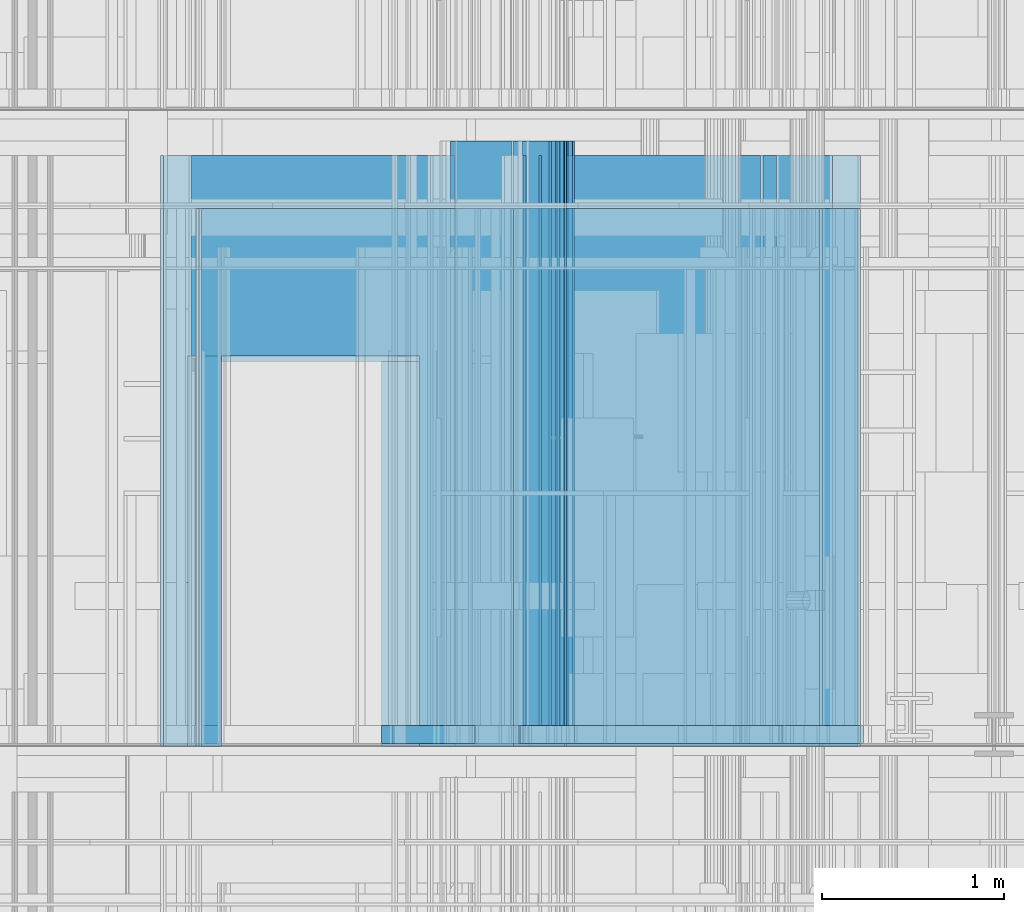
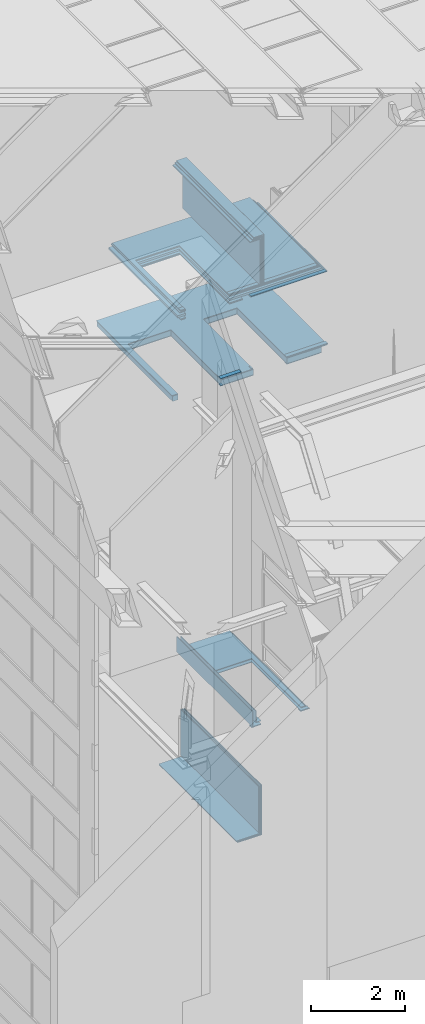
# One storey, part 79 of 583: 39 building element parts, 7 openings, 8 elements without a shape of their own.
"""IFC2X3 building model written with IfcOpenShell, lengths in metres."""

from ifc_helpers import new_model, entity, si_unit, converted_unit, derived_unit, money_unit, direction, frame, frame_2d, origin_with_axes, place, context, subcontext, project, spatial, polyline, rectangle, outline, extrude, material, type_object, element, aggregate, save


model = new_model("IFC2X3")

# Units and contexts
model_context = context("Model", 3, precision=1e-05, world=origin_with_axes(), true_north=direction((0.0, 1.0)))
body_context = subcontext(model_context, "Body", "Model", "MODEL_VIEW", scale=1.0)
ifc_project = project(units=[si_unit("LENGTHUNIT", "METRE"), si_unit("AREAUNIT", "SQUARE_METRE"), si_unit("VOLUMEUNIT", "CUBIC_METRE"), si_unit("ABSORBEDDOSEUNIT", "GRAY"), si_unit("AMOUNTOFSUBSTANCEUNIT", "MOLE"), si_unit("DOSEEQUIVALENTUNIT", "SIEVERT"), si_unit("ELECTRICCAPACITANCEUNIT", "FARAD"), si_unit("ELECTRICCHARGEUNIT", "COULOMB"), si_unit("ELECTRICCONDUCTANCEUNIT", "SIEMENS"), si_unit("ELECTRICCURRENTUNIT", "AMPERE"), si_unit("ELECTRICRESISTANCEUNIT", "OHM"), si_unit("ELECTRICVOLTAGEUNIT", "VOLT"), si_unit("ENERGYUNIT", "JOULE"), si_unit("FORCEUNIT", "NEWTON"), si_unit("FREQUENCYUNIT", "HERTZ"), si_unit("ILLUMINANCEUNIT", "LUX"), si_unit("INDUCTANCEUNIT", "HENRY"), si_unit("LUMINOUSFLUXUNIT", "LUMEN"), si_unit("LUMINOUSINTENSITYUNIT", "CANDELA"), si_unit("MAGNETICFLUXDENSITYUNIT", "TESLA"), si_unit("MAGNETICFLUXUNIT", "WEBER"), si_unit("MASSUNIT", "GRAM"), converted_unit("PLANEANGLEUNIT", "degree", entity("IfcReal", 0.0174532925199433), si_unit("PLANEANGLEUNIT", "RADIAN"), dimensions=[0, 0, 0, 0, 0, 0, 0]), si_unit("POWERUNIT", "WATT"), si_unit("PRESSUREUNIT", "PASCAL"), si_unit("RADIOACTIVITYUNIT", "BECQUEREL"), si_unit("SOLIDANGLEUNIT", "STERADIAN"), si_unit("THERMODYNAMICTEMPERATUREUNIT", "KELVIN"), si_unit("TIMEUNIT", "SECOND"), derived_unit("ACCELERATIONUNIT", [(si_unit("LENGTHUNIT", "METRE"), 1), (si_unit("TIMEUNIT", "SECOND"), -2)]), derived_unit("ANGULARVELOCITYUNIT", [(converted_unit("PLANEANGLEUNIT", "degree", entity("IfcReal", 0.0174532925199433), si_unit("PLANEANGLEUNIT", "RADIAN"), dimensions=[0, 0, 0, 0, 0, 0, 0]), 1), (si_unit("TIMEUNIT", "SECOND"), -1)]), derived_unit("CURVATUREUNIT", [(converted_unit("PLANEANGLEUNIT", "degree", entity("IfcReal", 0.0174532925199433), si_unit("PLANEANGLEUNIT", "RADIAN"), dimensions=[0, 0, 0, 0, 0, 0, 0]), 1), (si_unit("LENGTHUNIT", "METRE"), -1)]), derived_unit("DYNAMICVISCOSITYUNIT", [(si_unit("PRESSUREUNIT", "PASCAL"), 1), (si_unit("TIMEUNIT", "SECOND"), 1)]), derived_unit("HEATFLUXDENSITYUNIT", [(si_unit("POWERUNIT", "WATT"), 1), (si_unit("LENGTHUNIT", "METRE"), -2)]), derived_unit("HEATINGVALUEUNIT", [(si_unit("ENERGYUNIT", "JOULE"), 1), (si_unit("MASSUNIT", "GRAM"), -1)]), derived_unit("INTEGERCOUNTRATEUNIT", [(si_unit("TIMEUNIT", "SECOND"), -1)]), derived_unit("IONCONCENTRATIONUNIT", [(si_unit("MASSUNIT", "GRAM"), 1), (si_unit("VOLUMEUNIT", "CUBIC_METRE"), -1)]), derived_unit("ISOTHERMALMOISTURECAPACITYUNIT", [(si_unit("VOLUMEUNIT", "CUBIC_METRE"), 1), (si_unit("MASSUNIT", "GRAM"), -1)]), derived_unit("KINEMATICVISCOSITYUNIT", [(si_unit("AREAUNIT", "SQUARE_METRE"), 1), (si_unit("TIMEUNIT", "SECOND"), -1)]), derived_unit("LINEARFORCEUNIT", [(si_unit("FORCEUNIT", "NEWTON"), 1), (si_unit("LENGTHUNIT", "METRE"), -1)]), derived_unit("LINEARMOMENTUNIT", [(si_unit("FORCEUNIT", "NEWTON"), 1), (si_unit("LENGTHUNIT", "METRE"), -1)]), derived_unit("LINEARSTIFFNESSUNIT", [(si_unit("FORCEUNIT", "NEWTON"), 1), (si_unit("LENGTHUNIT", "METRE"), -1)]), derived_unit("LINEARVELOCITYUNIT", [(si_unit("LENGTHUNIT", "METRE"), 1), (si_unit("TIMEUNIT", "SECOND"), -1)]), derived_unit("LUMINOUSINTENSITYDISTRIBUTIONUNIT", [(si_unit("LUMINOUSINTENSITYUNIT", "CANDELA"), 1), (si_unit("LUMINOUSFLUXUNIT", "LUMEN"), -1)]), derived_unit("MASSDENSITYUNIT", [(si_unit("MASSUNIT", "GRAM"), 1), (si_unit("VOLUMEUNIT", "CUBIC_METRE"), -1)]), derived_unit("MASSFLOWRATEUNIT", [(si_unit("MASSUNIT", "GRAM"), 1), (si_unit("TIMEUNIT", "SECOND"), -1)]), derived_unit("MASSPERLENGTHUNIT", [(si_unit("MASSUNIT", "GRAM"), 1), (si_unit("LENGTHUNIT", "METRE"), -1)]), derived_unit("MODULUSOFELASTICITYUNIT", [(si_unit("FORCEUNIT", "NEWTON"), 1), (si_unit("AREAUNIT", "SQUARE_METRE"), -1)]), derived_unit("MODULUSOFLINEARSUBGRADEREACTIONUNIT", [(si_unit("FORCEUNIT", "NEWTON"), 1), (si_unit("LENGTHUNIT", "METRE"), -2)]), derived_unit("MODULUSOFROTATIONALSUBGRADEREACTIONUNIT", [(si_unit("FORCEUNIT", "NEWTON"), 1), (si_unit("LENGTHUNIT", "METRE"), 1)]), derived_unit("MODULUSOFSUBGRADEREACTIONUNIT", [(si_unit("FORCEUNIT", "NEWTON"), 1), (si_unit("VOLUMEUNIT", "CUBIC_METRE"), -1)]), derived_unit("MOISTUREDIFFUSIVITYUNIT", [(si_unit("VOLUMEUNIT", "CUBIC_METRE"), 1), (si_unit("TIMEUNIT", "SECOND"), -1)]), derived_unit("MOLECULARWEIGHTUNIT", [(si_unit("MASSUNIT", "GRAM"), 1), (si_unit("AMOUNTOFSUBSTANCEUNIT", "MOLE"), -1)]), derived_unit("PLANARFORCEUNIT", [(si_unit("FORCEUNIT", "NEWTON"), 1), (si_unit("LENGTHUNIT", "METRE"), -2)]), derived_unit("ROTATIONALFREQUENCYUNIT", [(si_unit("TIMEUNIT", "SECOND"), -1)]), derived_unit("ROTATIONALMASSUNIT", [(si_unit("MASSUNIT", "GRAM"), 1), (si_unit("LENGTHUNIT", "METRE"), 2)]), derived_unit("ROTATIONALSTIFFNESSUNIT", [(si_unit("FORCEUNIT", "NEWTON"), 1), (si_unit("LENGTHUNIT", "METRE"), 1), (converted_unit("PLANEANGLEUNIT", "degree", entity("IfcReal", 0.0174532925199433), si_unit("PLANEANGLEUNIT", "RADIAN"), dimensions=[0, 0, 0, 0, 0, 0, 0]), -1)]), derived_unit("SECTIONAREAINTEGRALUNIT", [(si_unit("LENGTHUNIT", "METRE"), 5)]), derived_unit("SECTIONMODULUSUNIT", [(si_unit("LENGTHUNIT", "METRE"), 3)]), derived_unit("SHEARMODULUSUNIT", [(si_unit("FORCEUNIT", "NEWTON"), 1), (si_unit("AREAUNIT", "SQUARE_METRE"), -1)]), derived_unit("SOUNDPOWERUNIT", [(si_unit("ENERGYUNIT", "JOULE"), 1), (si_unit("TIMEUNIT", "SECOND"), -1)]), derived_unit("SPECIFICHEATCAPACITYUNIT", [(si_unit("FORCEUNIT", "NEWTON"), 1), (si_unit("MASSUNIT", "GRAM"), -1), (si_unit("THERMODYNAMICTEMPERATUREUNIT", "KELVIN"), -1)]), derived_unit("TEMPERATUREGRADIENTUNIT", [(si_unit("THERMODYNAMICTEMPERATUREUNIT", "KELVIN"), 1), (si_unit("LENGTHUNIT", "METRE"), -1)]), derived_unit("THERMALADMITTANCEUNIT", [(si_unit("POWERUNIT", "WATT"), 1), (si_unit("AREAUNIT", "SQUARE_METRE"), -1), (si_unit("THERMODYNAMICTEMPERATUREUNIT", "KELVIN"), -1)]), derived_unit("THERMALCONDUCTANCEUNIT", [(si_unit("POWERUNIT", "WATT"), 1), (si_unit("LENGTHUNIT", "METRE"), -1), (si_unit("THERMODYNAMICTEMPERATUREUNIT", "KELVIN"), -1)]), derived_unit("THERMALEXPANSIONCOEFFICIENTUNIT", [(si_unit("THERMODYNAMICTEMPERATUREUNIT", "KELVIN"), -1)]), derived_unit("THERMALRESISTANCEUNIT", [(si_unit("AREAUNIT", "SQUARE_METRE"), 1), (si_unit("POWERUNIT", "WATT"), -1)]), derived_unit("THERMALTRANSMITTANCEUNIT", [(si_unit("POWERUNIT", "WATT"), 1), (si_unit("AREAUNIT", "SQUARE_METRE"), -1), (si_unit("THERMODYNAMICTEMPERATUREUNIT", "KELVIN"), -1)]), derived_unit("TORQUEUNIT", [(si_unit("FORCEUNIT", "NEWTON"), 1), (si_unit("LENGTHUNIT", "METRE"), 1)]), derived_unit("VAPORPERMEABILITYUNIT", [(si_unit("MASSUNIT", "GRAM"), 1), (si_unit("TIMEUNIT", "SECOND"), -1)]), derived_unit("VOLUMETRICFLOWRATEUNIT", [(si_unit("VOLUMEUNIT", "CUBIC_METRE"), 1), (si_unit("TIMEUNIT", "SECOND"), -1)]), derived_unit("WARPINGCONSTANTUNIT", [(si_unit("LENGTHUNIT", "METRE"), 6)]), derived_unit("WARPINGMOMENTUNIT", [(si_unit("FORCEUNIT", "NEWTON"), 1), (si_unit("LENGTHUNIT", "METRE"), 2)]), money_unit("GBP")], contexts=[model_context])

# Site, building, storey
site_placement = place(None, origin_with_axes())
site = spatial("IfcSite", under=ifc_project, at=site_placement, Name="Site", CompositionType="ELEMENT")
building_placement = place(site_placement, origin_with_axes())
building = spatial("IfcBuilding", under=site, at=building_placement, Name="Building01", CompositionType="ELEMENT")
storey_placement = place(building_placement, frame((0.0, 0.0, 20.78), z_axis=(0.0, 0.0, 1.0), x_axis=(1.0, 0.0, 0.0)))
storey = spatial("IfcBuildingStorey", under=building, at=storey_placement, Name="RL", CompositionType="ELEMENT", Elevation=20.78)

# Wall, openings, building element parts
wall_type_1 = type_object("IfcWallType", Name="SHE_A-Walls_Type03a_BlockworkWall_170mm", PredefinedType="NOTDEFINED")
wall_1_placement = place(storey_placement, frame((8.665, 8.64, -2.935), z_axis=(0.0, 1.0, 0.0), x_axis=(-1.0, 0.0, 0.0)))
wall_1 = element("IfcWall", 1, at=wall_1_placement, inside=storey, type_object=wall_type_1, Name="4B", ObjectType="SHE_A-Walls_Type03a_BlockworkWall_170mm")
opening_1_placement = place(wall_1_placement, frame((0.88612, -0.095, 0.0), z_axis=(0.0, 0.0, 1.0), x_axis=(1.0, 0.0, 0.0)))
element("IfcOpeningElement", 2, at=opening_1_placement, cuts=wall_1, Name="Opening", ObjectType="Opening", context=body_context, shape_type="SweptSolid", body=[
    extrude(rectangle(XDim=0.75, YDim=2.142, at=frame_2d((0.375, 1.071), x_axis=(-1.0, 0.0))), frame((0.0, 5.507577, 0.0), z_axis=(0.0, -1.0, 0.0), x_axis=(1.0, 0.0, 0.0)), (0.0, 0.0, 1.0), 11.015153),
])
opening_2_placement = place(wall_1_placement, frame((2.554262, -0.095, 0.0), z_axis=(0.0, 0.0, 1.0), x_axis=(1.0, 0.0, 0.0)))
element("IfcOpeningElement", 3, at=opening_2_placement, cuts=wall_1, Name="Opening", ObjectType="Opening", context=body_context, shape_type="SweptSolid", body=[
    extrude(rectangle(XDim=0.984, YDim=2.142, at=frame_2d((0.492, 1.071), x_axis=(-1.0, 0.0))), frame((0.0, 5.507577, 0.0), z_axis=(0.0, -1.0, 0.0), x_axis=(1.0, 0.0, 0.0)), (0.0, 0.0, 1.0), 11.015153),
])
opening_3_placement = place(wall_1_placement, frame((2.473, -0.015, 0.0), z_axis=(0.0, 0.0, 1.0), x_axis=(1.0, 0.0, 0.0)))
element("IfcOpeningElement", 4, at=opening_3_placement, cuts=wall_1, Name="Opening", ObjectType="Opening", context=body_context, shape_type="SweptSolid", body=[
    extrude(rectangle(XDim=0.984, YDim=2.142, at=frame_2d((0.492, 1.071), x_axis=(-1.0, 0.0))), frame((0.0, 5.387814, 0.0), z_axis=(0.0, -1.0, 0.0), x_axis=(1.0, 0.0, 0.0)), (0.0, 0.0, 1.0), 10.775627),
])
opening_4_placement = place(wall_1_placement, frame((0.84412, -0.015, 0.0), z_axis=(0.0, 0.0, 1.0), x_axis=(1.0, 0.0, 0.0)))
element("IfcOpeningElement", 5, at=opening_4_placement, cuts=wall_1, Name="Opening", ObjectType="Opening", context=body_context, shape_type="SweptSolid", body=[
    extrude(rectangle(XDim=2.142, YDim=0.834, at=frame_2d((0.417, 1.071), x_axis=(0.0, -1.0))), frame((0.0, 5.387814, 0.0), z_axis=(0.0, -1.0, 0.0), x_axis=(1.0, 0.0, 0.0)), (0.0, 0.0, 1.0), 10.775627),
])
ifc_material_1 = material(Name="A_BSUK_WallsInternal_Block")
placement_1 = place(wall_1_placement, origin_with_axes())
building_element_part_1 = element("IfcBuildingElementPart", 6, at=placement_1, material=ifc_material_1, Name="1", context=body_context, shape_type="SweptSolid", body=[
    extrude(rectangle(XDim=3.67, YDim=0.14, at=frame_2d((1.835, 0.07), x_axis=(-1.0, 0.0))), origin_with_axes(), (0.0, 0.0, 1.0), 3.24),
])
ifc_material_2 = material(Name="A_BSUK_Walls_Timber")
building_element_part_2 = element("IfcBuildingElementPart", 7, at=placement_1, material=ifc_material_2, Name="2", context=body_context, shape_type="SweptSolid", body=[
    extrude(rectangle(XDim=1.89, YDim=0.015, at=frame_2d((0.775, 0.1625), x_axis=(-1.0, 0.0))), frame((0.0, 0.0, 0.015), z_axis=(0.0, 0.0, 1.0), x_axis=(1.0, 0.0, 0.0)), (0.0, 0.0, 1.0), 0.1),
])
ifc_material_3 = material(Name="A_BSUK_WallInternal_Finishes_Plaster")
building_element_part_3 = element("IfcBuildingElementPart", 8, at=placement_1, material=ifc_material_3, Name="3", context=body_context, shape_type="SweptSolid", body=[
    extrude(rectangle(XDim=3.84, YDim=0.015, at=frame_2d((1.765, 0.1475), x_axis=(-1.0, 0.0))), origin_with_axes(), (0.0, 0.0, 1.0), 3.24),
])
ifc_material_4 = material(Name="A_BSUK_WallInternal_Finishes_Plasterboard")
building_element_part_4 = element("IfcBuildingElementPart", 9, at=placement_1, material=ifc_material_4, Name="4", context=body_context, shape_type="SweptSolid", body=[
    extrude(outline(polyline([(2.205, 0.0), (0.0, 0.0), (0.0, -0.015), (2.19, -0.015), (2.205, 0.0)])), origin_with_axes(), (0.0, 0.0, 1.0), 3.24),
])
building_element_part_5 = element("IfcBuildingElementPart", 10, at=placement_1, material=ifc_material_2, Name="5", context=body_context, shape_type="SweptSolid", body=[
    extrude(outline(polyline([(2.205, -0.015), (0.03, -0.015), (0.03, -0.03), (2.19, -0.03), (2.205, -0.015)])), frame((0.0, 0.0, 0.015), z_axis=(0.0, 0.0, 1.0), x_axis=(1.0, 0.0, 0.0)), (0.0, 0.0, 1.0), 0.1),
])
building_element_part_6 = element("IfcBuildingElementPart", 11, at=placement_1, material=ifc_material_4, Name="6", context=body_context, shape_type="SweptSolid", body=[
    extrude(outline(polyline([(3.515, 0.0), (2.19, 0.0), (2.205, -0.015), (3.515, -0.015), (3.515, 0.0)])), origin_with_axes(), (0.0, 0.0, 1.0), 3.24),
])
building_element_part_7 = element("IfcBuildingElementPart", 12, at=placement_1, material=ifc_material_2, Name="7", context=body_context, shape_type="SweptSolid", body=[
    extrude(outline(polyline([(3.445, 0.17), (1.975, 0.17), (1.975, 0.155), (3.46, 0.155), (3.445, 0.17)])), frame((0.0, 0.0, 0.015), z_axis=(0.0, 0.0, 1.0), x_axis=(1.0, 0.0, 0.0)), (0.0, 0.0, 1.0), 0.1),
])
building_element_part_8 = element("IfcBuildingElementPart", 13, at=placement_1, material=ifc_material_2, Name="8", context=body_context, shape_type="SweptSolid", body=[
    extrude(outline(polyline([(3.445, 0.17), (1.96, 0.17), (1.96, 0.155), (3.46, 0.155), (3.445, 0.17)])), frame((0.0, 0.0, 0.015), z_axis=(0.0, 0.0, 1.0), x_axis=(1.0, 0.0, 0.0)), (0.0, 0.0, 1.0), 0.1),
])
building_element_part_9 = element("IfcBuildingElementPart", 14, at=placement_1, material=ifc_material_2, Name="9", context=body_context, shape_type="SweptSolid", body=[
    extrude(outline(polyline([(3.445, 0.17), (1.96, 0.17), (1.96, 0.155), (3.46, 0.155), (3.445, 0.17)])), frame((0.0, 0.0, 0.015), z_axis=(0.0, 0.0, 1.0), x_axis=(1.0, 0.0, 0.0)), (0.0, 0.0, 1.0), 0.1),
])
building_element_part_10 = element("IfcBuildingElementPart", 15, at=placement_1, material=ifc_material_2, Name="10", context=body_context, shape_type="SweptSolid", body=[
    extrude(rectangle(XDim=1.085, YDim=0.015, at=frame_2d((2.9575, -0.0225), x_axis=(-1.0, 0.0))), frame((0.0, 0.0, 0.015), z_axis=(0.0, 0.0, 1.0), x_axis=(1.0, 0.0, 0.0)), (0.0, 0.0, 1.0), 0.1),
])
aggregate(wall_1, [building_element_part_1, building_element_part_2, building_element_part_3, building_element_part_4, building_element_part_5, building_element_part_6, building_element_part_7, building_element_part_8, building_element_part_9, building_element_part_10])

wall_type_2 = type_object("IfcWallType", Name="SHE_A-Walls_Type01c_Partywall_225mm_twin_tall", PredefinedType="NOTDEFINED")
wall_2_placement = place(storey_placement, frame((8.732, 8.64, -0.794339), z_axis=(0.0, 1.0, 0.0), x_axis=(-1.0, 0.0, 0.0)))
wall_2 = element("IfcWall", 16, at=wall_2_placement, inside=storey, type_object=wall_type_2, Name="1C", ObjectType="SHE_A-Walls_Type01c_Partywall_225mm_twin_tall")
opening_5_placement = place(wall_2_placement, frame((2.332853, -0.313, -0.03), z_axis=(0.0, 0.0, 1.0), x_axis=(1.0, 0.0, 0.0)))
element("IfcOpeningElement", 17, at=opening_5_placement, cuts=wall_2, Name="Opening", ObjectType="Opening", context=body_context, shape_type="SweptSolid", body=[
    extrude(rectangle(XDim=1.084, YDim=2.142, at=frame_2d((-0.542, 1.071), x_axis=(1.0, 0.0))), frame((0.0, -0.5445, 0.0), z_axis=(0.0, 1.0, 0.0), x_axis=(-1.0, 0.0, 0.0)), (0.0, 0.0, 1.0), 1.089),
])
opening_6_placement = place(wall_2_placement, frame((2.332853, 0.137, 0.0), z_axis=(0.0, 0.0, 1.0), x_axis=(1.0, 0.0, 0.0)))
element("IfcOpeningElement", 18, at=opening_6_placement, cuts=wall_2, Name="Opening", ObjectType="Opening", context=body_context, shape_type="SweptSolid", body=[
    extrude(rectangle(XDim=2.142, YDim=1.084, at=frame_2d((-0.542, 1.071), x_axis=(0.0, -1.0))), frame((0.0, -0.2055, 0.0), z_axis=(0.0, 1.0, 0.0), x_axis=(-1.0, 0.0, 0.0)), (0.0, 0.0, 1.0), 0.411),
])
ifc_material_5 = material(Name="A_BSUK_Insulation")
placement_2 = place(wall_2_placement, origin_with_axes())
building_element_part_11 = element("IfcBuildingElementPart", 19, at=placement_2, material=ifc_material_5, Name="1", context=body_context, shape_type="SweptSolid", body=[
    extrude(outline(polyline([(3.614, 0.05), (0.05, 0.05), (0.0, 0.0), (3.614, 0.0), (3.614, 0.05)])), origin_with_axes(), (0.0, 0.0, 1.0), 2.95),
])
building_element_part_12 = element("IfcBuildingElementPart", 20, at=placement_2, material=ifc_material_2, Name="2", context=body_context, shape_type="SweptSolid", body=[
    extrude(rectangle(XDim=1.33, YDim=0.015, at=frame_2d((0.817, 0.1445), x_axis=(-1.0, 0.0))), frame((0.0, 0.0, 0.015), z_axis=(0.0, 0.0, 1.0), x_axis=(1.0, 0.0, 0.0)), (0.0, 0.0, 1.0), 0.1),
])
building_element_part_13 = element("IfcBuildingElementPart", 21, at=placement_2, material=ifc_material_4, Name="3", context=body_context, shape_type="SweptSolid", body=[
    extrude(rectangle(XDim=3.405, YDim=0.015, at=frame_2d((1.8245, 0.1295), x_axis=(-1.0, 0.0))), origin_with_axes(), (0.0, 0.0, 1.0), 2.95),
])
building_element_part_14 = element("IfcBuildingElementPart", 22, at=placement_2, material=ifc_material_4, Name="4", context=body_context, shape_type="SweptSolid", body=[
    extrude(outline(polyline([(3.557, 0.122), (0.122, 0.122), (0.107, 0.107), (3.557, 0.107), (3.557, 0.122)])), origin_with_axes(), (0.0, 0.0, 1.0), 2.95),
])
building_element_part_15 = element("IfcBuildingElementPart", 23, at=placement_2, material=ifc_material_4, Name="5", context=body_context, shape_type="SweptSolid", body=[
    extrude(rectangle(XDim=1.89, YDim=0.015, at=frame_2d((0.887, -0.0655), x_axis=(-1.0, 0.0))), origin_with_axes(), (0.0, 0.0, 1.0), 2.95),
])
building_element_part_16 = element("IfcBuildingElementPart", 24, at=placement_2, material=ifc_material_4, Name="6", context=body_context, shape_type="SweptSolid", body=[
    extrude(rectangle(XDim=1.89, YDim=0.015, at=frame_2d((0.872, -0.0805), x_axis=(-1.0, 0.0))), origin_with_axes(), (0.0, 0.0, 1.0), 2.95),
])
building_element_part_17 = element("IfcBuildingElementPart", 25, at=placement_2, material=ifc_material_2, Name="7", context=body_context, shape_type="SweptSolid", body=[
    extrude(outline(polyline([(1.787, -0.088), (-0.073, -0.088), (-0.088, -0.103), (1.787, -0.103), (1.787, -0.088)])), frame((0.0, 0.0, 0.015), z_axis=(0.0, 0.0, 1.0), x_axis=(1.0, 0.0, 0.0)), (0.0, 0.0, 1.0), 0.1),
])
building_element_part_18 = element("IfcBuildingElementPart", 26, at=placement_2, material=ifc_material_2, Name="8", context=body_context, shape_type="SweptSolid", body=[
    extrude(outline(polyline([(1.802, -0.088), (-0.073, -0.088), (-0.088, -0.103), (1.802, -0.103), (1.802, -0.088)])), frame((0.0, 0.0, 0.015), z_axis=(0.0, 0.0, 1.0), x_axis=(1.0, 0.0, 0.0)), (0.0, 0.0, 1.0), 0.1),
])
building_element_part_19 = element("IfcBuildingElementPart", 27, at=placement_2, material=ifc_material_4, Name="9", context=body_context, shape_type="SweptSolid", body=[
    extrude(outline(polyline([(0.122, -0.073), (-0.088, -0.073), (-0.088, -0.088), (0.137, -0.088), (0.122, -0.073)])), origin_with_axes(), (0.0, 0.0, 1.0), 2.95),
])
building_element_part_20 = element("IfcBuildingElementPart", 28, at=placement_2, material=ifc_material_4, Name="10", context=body_context, shape_type="SweptSolid", body=[
    extrude(outline(polyline([(0.122, -0.058), (-0.073, -0.058), (-0.073, -0.073), (0.137, -0.073), (0.122, -0.058)])), origin_with_axes(), (0.0, 0.0, 1.0), 2.95),
])
building_element_part_21 = element("IfcBuildingElementPart", 29, at=placement_2, material=ifc_material_2, Name="11", context=body_context, shape_type="SweptSolid", body=[
    extrude(rectangle(XDim=1.935, YDim=0.015, at=frame_2d((2.5595, 0.1445), x_axis=(-1.0, 0.0))), frame((0.0, 0.0, 0.015), z_axis=(0.0, 0.0, 1.0), x_axis=(1.0, 0.0, 0.0)), (0.0, 0.0, 1.0), 0.1),
])
building_element_part_22 = element("IfcBuildingElementPart", 30, at=placement_2, material=ifc_material_4, Name="12", context=body_context, shape_type="SweptSolid", body=[
    extrude(rectangle(XDim=1.515, YDim=0.015, at=frame_2d((2.7695, -0.0805), x_axis=(-1.0, 0.0))), origin_with_axes(), (0.0, 0.0, 1.0), 2.95),
])
building_element_part_23 = element("IfcBuildingElementPart", 31, at=placement_2, material=ifc_material_4, Name="13", context=body_context, shape_type="SweptSolid", body=[
    extrude(rectangle(XDim=1.53, YDim=0.015, at=frame_2d((2.777, -0.0655), x_axis=(-1.0, 0.0))), origin_with_axes(), (0.0, 0.0, 1.0), 2.95),
])
aggregate(wall_2, [building_element_part_11, building_element_part_12, building_element_part_13, building_element_part_14, building_element_part_15, building_element_part_16, building_element_part_17, building_element_part_18, building_element_part_19, building_element_part_20, building_element_part_21, building_element_part_22, building_element_part_23])

# Wall, building element parts
wall_type_3 = type_object("IfcWallType", Name="SHE_A-Walls_Type04c_RiserWall_102mm_tall", PredefinedType="NOTDEFINED")
wall_3_placement = place(storey_placement, frame((6.968405, 8.655, -11.72), z_axis=(0.0, 1.0, 0.0), x_axis=(0.0, 0.0, -1.0)))
wall_3 = element("IfcWall", 32, at=wall_3_placement, inside=storey, type_object=wall_type_3, Name="4C", ObjectType="SHE_A-Walls_Type04c_RiserWall_102mm_tall")
placement_3 = place(wall_3_placement, origin_with_axes())
building_element_part_24 = element("IfcBuildingElementPart", 33, at=placement_3, material=ifc_material_4, Name="2", context=body_context, shape_type="SweptSolid", body=[
    extrude(outline(polyline([(0.402, 0.0), (0.0, 0.0), (0.0, -0.015), (0.387, -0.015), (0.402, 0.0)])), frame((0.0, 0.0, -0.015), z_axis=(0.0, 0.0, 1.0), x_axis=(1.0, 0.0, 0.0)), (0.0, 0.0, 1.0), 3.24),
])
building_element_part_25 = element("IfcBuildingElementPart", 34, at=placement_3, material=ifc_material_4, Name="3", context=body_context, shape_type="SweptSolid", body=[
    extrude(outline(polyline([(0.315, -0.087), (0.015, -0.087), (0.015, -0.102), (0.3, -0.102), (0.315, -0.087)])), frame((0.0, 0.0, -0.015), z_axis=(0.0, 0.0, 1.0), x_axis=(1.0, 0.0, 0.0)), (0.0, 0.0, 1.0), 3.24),
])
aggregate(wall_3, [building_element_part_24, building_element_part_25])

# Wall, opening, building element parts
wall_4_placement = place(storey_placement, frame((6.968405, 8.655, -12.122), z_axis=(0.0, 1.0, 0.0), x_axis=(1.0, 0.0, 0.0)))
wall_4 = element("IfcWall", 35, at=wall_4_placement, inside=storey, type_object=wall_type_3, Name="4C", ObjectType="SHE_A-Walls_Type04c_RiserWall_102mm_tall")
opening_7_placement = place(wall_4_placement, frame((0.21, 0.0, -0.015), z_axis=(0.0, 0.0, 1.0), x_axis=(1.0, 0.0, 0.0)))
element("IfcOpeningElement", 36, at=opening_7_placement, cuts=wall_4, Name="Opening", ObjectType="Opening", context=body_context, shape_type="SweptSolid", body=[
    extrude(rectangle(XDim=2.1, YDim=0.984, at=frame_2d((-0.492, 1.05), x_axis=(0.0, -1.0))), frame((0.0, -2.797242, 0.0), z_axis=(0.0, 1.0, 0.0), x_axis=(-1.0, 0.0, 0.0)), (0.0, 0.0, 1.0), 5.594484),
])
placement_4 = place(wall_4_placement, origin_with_axes())
building_element_part_26 = element("IfcBuildingElementPart", 37, at=placement_4, material=ifc_material_2, Name="1", context=body_context, shape_type="SweptSolid", body=[
    extrude(outline(polyline([(1.419, 0.015), (-0.015, 0.015), (0.0, 0.0), (1.404, 0.0), (1.419, 0.015)])), origin_with_axes(), (0.0, 0.0, 1.0), 0.1),
])
building_element_part_27 = element("IfcBuildingElementPart", 38, at=placement_4, material=ifc_material_4, Name="2", context=body_context, shape_type="SweptSolid", body=[
    extrude(outline(polyline([(1.389, 0.0), (0.0, 0.0), (0.015, -0.015), (1.389, -0.015), (1.389, 0.0)])), frame((0.0, 0.0, -0.015), z_axis=(0.0, 0.0, 1.0), x_axis=(1.0, 0.0, 0.0)), (0.0, 0.0, 1.0), 3.24),
])
building_element_part_28 = element("IfcBuildingElementPart", 39, at=placement_4, material=ifc_material_4, Name="3", context=body_context, shape_type="SweptSolid", body=[
    extrude(outline(polyline([(1.317, -0.087), (0.087, -0.087), (0.102, -0.102), (1.302, -0.102), (1.317, -0.087)])), frame((0.0, 0.0, -0.015), z_axis=(0.0, 0.0, 1.0), x_axis=(1.0, 0.0, 0.0)), (0.0, 0.0, 1.0), 3.24),
])
aggregate(wall_4, [building_element_part_26, building_element_part_27, building_element_part_28])

# Wall, building element parts
wall_type_4 = type_object("IfcWallType", Name="SHE_A-Walls_Type05a_Partition_95mm_tall", PredefinedType="NOTDEFINED")
wall_5_placement = place(storey_placement, frame((6.571475, 8.64, -14.975331), z_axis=(0.0, 1.0, 0.0), x_axis=(1.0, 0.0, 0.0)))
wall_5 = element("IfcWall", 40, at=wall_5_placement, inside=storey, type_object=wall_type_4, Name="5A", ObjectType="SHE_A-Walls_Type05a_Partition_95mm_tall")
placement_5 = place(wall_5_placement, origin_with_axes())
building_element_part_29 = element("IfcBuildingElementPart", 41, at=placement_5, material=ifc_material_5, Name="1", context=body_context, shape_type="SweptSolid", body=[
    extrude(outline(polyline([(0.6, 0.0), (0.0, 0.0), (0.0, -0.025), (0.575, -0.025), (0.6, 0.0)])), origin_with_axes(), (0.0, 0.0, 1.0), 3.32),
])
building_element_part_30 = element("IfcBuildingElementPart", 42, at=placement_5, material=ifc_material_4, Name="5", context=body_context, shape_type="SweptSolid", body=[
    extrude(outline(polyline([(0.635, 0.035), (0.035, 0.035), (0.023, 0.023), (0.623, 0.023), (0.635, 0.035)])), origin_with_axes(), (0.0, 0.0, 1.0), 3.32),
])
aggregate(wall_5, [building_element_part_29, building_element_part_30])

wall_6_placement = place(storey_placement, frame((6.965, 8.64, 0.602661), z_axis=(0.0, 1.0, 0.0), x_axis=(1.0, 0.0, 0.0)))
wall_6 = element("IfcWall", 43, at=wall_6_placement, inside=storey, type_object=wall_type_4, Name="5A", ObjectType="SHE_A-Walls_Type05a_Partition_95mm_tall")
placement_6 = place(wall_6_placement, origin_with_axes())
building_element_part_31 = element("IfcBuildingElementPart", 44, at=placement_6, material=ifc_material_5, Name="1", context=body_context, shape_type="SweptSolid", body=[
    extrude(outline(polyline([(0.225, 0.025), (0.0, 0.025), (0.0, 0.0), (0.25, 0.0), (0.225, 0.025)])), origin_with_axes(), (0.0, 0.0, 1.0), 3.32),
])
building_element_part_32 = element("IfcBuildingElementPart", 45, at=placement_6, material=ifc_material_4, Name="4", context=body_context, shape_type="SweptSolid", body=[
    extrude(outline(polyline([(0.19, 0.06), (-0.06, 0.06), (-0.048, 0.048), (0.202, 0.048), (0.19, 0.06)])), origin_with_axes(), (0.0, 0.0, 1.0), 3.32),
])
building_element_part_33 = element("IfcBuildingElementPart", 46, at=placement_6, material=ifc_material_4, Name="5", context=body_context, shape_type="SweptSolid", body=[
    extrude(outline(polyline([(0.273, -0.023), (0.023, -0.023), (0.035, -0.035), (0.285, -0.035), (0.273, -0.023)])), origin_with_axes(), (0.0, 0.0, 1.0), 3.32),
])
aggregate(wall_6, [building_element_part_31, building_element_part_32, building_element_part_33])

wall_7_placement = place(storey_placement, frame((7.215, 8.64, 0.602661), z_axis=(0.0, 1.0, 0.0), x_axis=(0.0, 0.0, -1.0)))
wall_7 = element("IfcWall", 47, at=wall_7_placement, inside=storey, type_object=wall_type_4, Name="5A", ObjectType="SHE_A-Walls_Type05a_Partition_95mm_tall")
placement_7 = place(wall_7_placement, origin_with_axes())
building_element_part_34 = element("IfcBuildingElementPart", 48, at=placement_7, material=ifc_material_5, Name="1", context=body_context, shape_type="SweptSolid", body=[
    extrude(outline(polyline([(1.26, 0.025), (0.025, 0.025), (0.0, 0.0), (1.26, 0.0), (1.26, 0.025)])), origin_with_axes(), (0.0, 0.0, 1.0), 3.32),
])
building_element_part_35 = element("IfcBuildingElementPart", 49, at=placement_7, material=ifc_material_4, Name="4", context=body_context, shape_type="SweptSolid", body=[
    extrude(outline(polyline([(1.26, 0.06), (0.06, 0.06), (0.048, 0.048), (1.26, 0.048), (1.26, 0.06)])), origin_with_axes(), (0.0, 0.0, 1.0), 3.32),
])
building_element_part_36 = element("IfcBuildingElementPart", 50, at=placement_7, material=ifc_material_4, Name="5", context=body_context, shape_type="SweptSolid", body=[
    extrude(outline(polyline([(1.26, -0.023), (-0.023, -0.023), (-0.035, -0.035), (1.26, -0.035), (1.26, -0.023)])), origin_with_axes(), (0.0, 0.0, 1.0), 3.32),
])
aggregate(wall_7, [building_element_part_34, building_element_part_35, building_element_part_36])

wall_8_placement = place(storey_placement, frame((7.171475, 8.64, -14.975331), z_axis=(0.0, 1.0, 0.0), x_axis=(0.0, 0.0, 1.0)))
wall_8 = element("IfcWall", 51, at=wall_8_placement, inside=storey, type_object=wall_type_4, Name="5A", ObjectType="SHE_A-Walls_Type05a_Partition_95mm_tall")
placement_8 = place(wall_8_placement, origin_with_axes())
building_element_part_37 = element("IfcBuildingElementPart", 52, at=placement_8, material=ifc_material_5, Name="1", context=body_context, shape_type="SweptSolid", body=[
    extrude(outline(polyline([(1.26, 0.0), (0.0, 0.0), (0.025, -0.025), (1.26, -0.025), (1.26, 0.0)])), origin_with_axes(), (0.0, 0.0, 1.0), 3.32),
])
building_element_part_38 = element("IfcBuildingElementPart", 53, at=placement_8, material=ifc_material_4, Name="4", context=body_context, shape_type="SweptSolid", body=[
    extrude(outline(polyline([(1.26, -0.048), (0.048, -0.048), (0.06, -0.06), (1.26, -0.06), (1.26, -0.048)])), origin_with_axes(), (0.0, 0.0, 1.0), 3.32),
])
building_element_part_39 = element("IfcBuildingElementPart", 54, at=placement_8, material=ifc_material_4, Name="5", context=body_context, shape_type="SweptSolid", body=[
    extrude(outline(polyline([(1.26, 0.035), (-0.035, 0.035), (-0.023, 0.023), (1.26, 0.023), (1.26, 0.035)])), origin_with_axes(), (0.0, 0.0, 1.0), 3.32),
])
aggregate(wall_8, [building_element_part_37, building_element_part_38, building_element_part_39])

save(model, "model.ifc")
